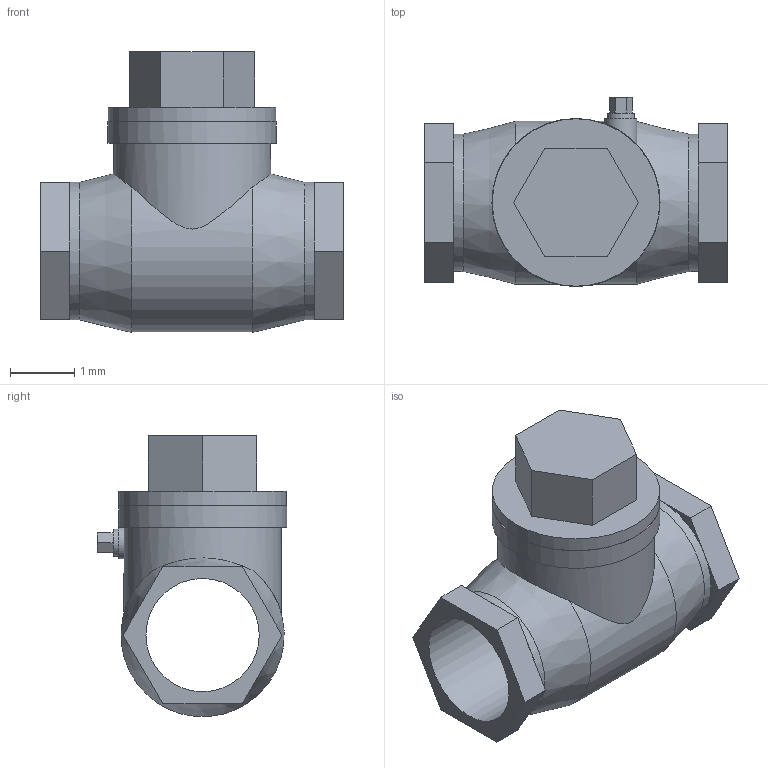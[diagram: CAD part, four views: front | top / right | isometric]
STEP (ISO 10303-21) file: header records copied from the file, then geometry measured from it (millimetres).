
FILE_DESCRIPTION(('Open CASCADE Model'),'2;1');
FILE_NAME('Open CASCADE Shape Model','2021-10-25T15:56:29',('Author'),( 'Open CASCADE'),'Open CASCADE STEP processor 7.3','Open CASCADE 7.3' ,'Unknown');
FILE_SCHEMA(('AUTOMOTIVE_DESIGN { 1 0 10303 214 1 1 1 1 }'));
Length unit declared in the file: millimetre
Products named in the file (1): Open CASCADE STEP translator 7.3 1
Bounding box: 4.72 x 2.95 x 4.38 mm (x, y, z)
Volume: 17.8 mm3; surface area: 83.3 mm2
Topology: 1 solids, 1 shells, 56 faces, 136 edges, 86 vertices
Faces by surface type: plane 45, cylinder 9, cone 2
Full cylindrical faces by diameter (mm): 0.42 x1, 0.5 x1, 1.765 x1, 2.143 x2, 2.45 x1, 2.61 x1, 2.62 x1
Entity records: 4358 total; most frequent: CARTESIAN_POINT 1632, DIRECTION 501, LINE 316, VECTOR 316, ORIENTED_EDGE 272, PCURVE 272, DEFINITIONAL_REPRESENTATION 272, EDGE_CURVE 136
